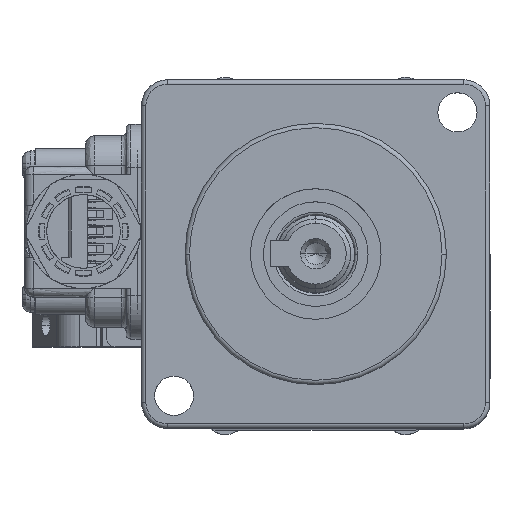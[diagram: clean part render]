
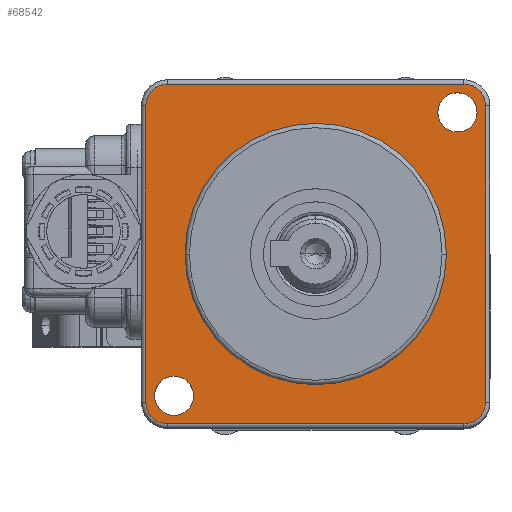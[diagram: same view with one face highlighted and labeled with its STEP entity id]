
A CAD part, top view. The second image highlights one B-rep face of the part: STEP entity #68542.
In plain terms, the highlighted planar face has unit normal (0, 0, 1).
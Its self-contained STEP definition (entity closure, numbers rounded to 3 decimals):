
#298 = DIRECTION ( 'NONE',  ( 0., 0., 1. ) ) ;
#1373 = LINE ( 'NONE', #54891, #66879 ) ;
#1890 = DIRECTION ( 'NONE',  ( 0., 0., 1. ) ) ;
#2450 = EDGE_CURVE ( 'NONE', #16602, #66907, #24047, .T. ) ;
#3047 = CIRCLE ( 'NONE', #60270, 2.25 ) ;
#3308 = DIRECTION ( 'NONE',  ( 0., 0., 1. ) ) ;
#3747 = AXIS2_PLACEMENT_3D ( 'NONE', #21713, #14943, #35306 ) ;
#4265 = ORIENTED_EDGE ( 'NONE', *, *, #46332, .T. ) ;
#4549 = ORIENTED_EDGE ( 'NONE', *, *, #62111, .T. ) ;
#5014 = EDGE_LOOP ( 'NONE', ( #61290, #83989 ) ) ;
#5046 = AXIS2_PLACEMENT_3D ( 'NONE', #64132, #70649, #29865 ) ;
#6982 = AXIS2_PLACEMENT_3D ( 'NONE', #33897, #68479, #20331 ) ;
#7092 = DIRECTION ( 'NONE',  ( -1., 0., 0. ) ) ;
#9124 = CARTESIAN_POINT ( 'NONE',  ( -4.76, -18.058, 75.5 ) ) ;
#9191 = FACE_BOUND ( 'NONE', #64204, .T. ) ;
#9263 = LINE ( 'NONE', #9124, #40968 ) ;
#10920 = VECTOR ( 'NONE', #47127, 1000. ) ;
#11209 = CARTESIAN_POINT ( 'NONE',  ( -24.26, -15.558, 75.5 ) ) ;
#12215 = CARTESIAN_POINT ( 'NONE',  ( 9.253, 17.705, 75.5 ) ) ;
#12603 = CARTESIAN_POINT ( 'NONE',  ( -21.76, 18.442, 75.5 ) ) ;
#14372 = EDGE_CURVE ( 'NONE', #32406, #60868, #63556, .T. ) ;
#14693 = CARTESIAN_POINT ( 'NONE',  ( 11.503, 17.705, 75.5 ) ) ;
#14736 = AXIS2_PLACEMENT_3D ( 'NONE', #14693, #82639, #48671 ) ;
#14758 = AXIS2_PLACEMENT_3D ( 'NONE', #47265, #298, #7092 ) ;
#14943 = DIRECTION ( 'NONE',  ( 0., 0., -1. ) ) ;
#15988 = VERTEX_POINT ( 'NONE', #84012 ) ;
#16250 = CARTESIAN_POINT ( 'NONE',  ( 14.74, -15.558, 75.5 ) ) ;
#16602 = VERTEX_POINT ( 'NONE', #11209 ) ;
#17217 = DIRECTION ( 'NONE',  ( -1., 0., 0. ) ) ;
#18402 = EDGE_CURVE ( 'NONE', #63578, #45551, #3047, .T. ) ;
#19540 = VERTEX_POINT ( 'NONE', #27220 ) ;
#20261 = DIRECTION ( 'NONE',  ( 0., 0., 1. ) ) ;
#20301 = EDGE_CURVE ( 'NONE', #66907, #23272, #9263, .T. ) ;
#20331 = DIRECTION ( 'NONE',  ( -1., 0., 0. ) ) ;
#20897 = DIRECTION ( 'NONE',  ( -1., 0., 0. ) ) ;
#21704 = CIRCLE ( 'NONE', #42471, 2.5 ) ;
#21713 = CARTESIAN_POINT ( 'NONE',  ( -4.76, 1.442, 75.5 ) ) ;
#23272 = VERTEX_POINT ( 'NONE', #48298 ) ;
#23579 = VERTEX_POINT ( 'NONE', #74955 ) ;
#23605 = DIRECTION ( 'NONE',  ( 0., 0., 1. ) ) ;
#23818 = ORIENTED_EDGE ( 'NONE', *, *, #20301, .T. ) ;
#24047 = CIRCLE ( 'NONE', #6982, 2.5 ) ;
#27220 = CARTESIAN_POINT ( 'NONE',  ( -19.76, 1.442, 75.5 ) ) ;
#27398 = VERTEX_POINT ( 'NONE', #16250 ) ;
#28184 = PLANE ( 'NONE',  #3747 ) ;
#28520 = CARTESIAN_POINT ( 'NONE',  ( -23.274, -14.822, 75.5 ) ) ;
#28576 = VERTEX_POINT ( 'NONE', #78456 ) ;
#28957 = EDGE_LOOP ( 'NONE', ( #29028, #83746 ) ) ;
#29028 = ORIENTED_EDGE ( 'NONE', *, *, #85522, .F. ) ;
#29093 = CARTESIAN_POINT ( 'NONE',  ( -21.76, -18.058, 75.5 ) ) ;
#29865 = DIRECTION ( 'NONE',  ( -1., 0., 0. ) ) ;
#29996 = CIRCLE ( 'NONE', #65724, 2.25 ) ;
#32396 = FACE_BOUND ( 'NONE', #5014, .T. ) ;
#32406 = VERTEX_POINT ( 'NONE', #40358 ) ;
#33897 = CARTESIAN_POINT ( 'NONE',  ( -21.76, -15.558, 75.5 ) ) ;
#34195 = DIRECTION ( 'NONE',  ( 0., 1., 0. ) ) ;
#34498 = FACE_BOUND ( 'NONE', #28957, .T. ) ;
#35306 = DIRECTION ( 'NONE',  ( -1., 0., 0. ) ) ;
#36478 = CIRCLE ( 'NONE', #14758, 15. ) ;
#37316 = ORIENTED_EDGE ( 'NONE', *, *, #73764, .T. ) ;
#37357 = LINE ( 'NONE', #66918, #10920 ) ;
#38771 = ORIENTED_EDGE ( 'NONE', *, *, #85326, .T. ) ;
#39671 = ORIENTED_EDGE ( 'NONE', *, *, #2450, .T. ) ;
#40358 = CARTESIAN_POINT ( 'NONE',  ( 13.753, 17.705, 75.5 ) ) ;
#40661 = DIRECTION ( 'NONE',  ( -1., 0., 0. ) ) ;
#40968 = VECTOR ( 'NONE', #56370, 1000. ) ;
#41458 = EDGE_CURVE ( 'NONE', #72192, #50703, #48172, .T. ) ;
#42392 = CARTESIAN_POINT ( 'NONE',  ( 11.503, 17.705, 75.5 ) ) ;
#42471 = AXIS2_PLACEMENT_3D ( 'NONE', #78606, #23605, #64418 ) ;
#42994 = EDGE_CURVE ( 'NONE', #15988, #28576, #54535, .T. ) ;
#43252 = AXIS2_PLACEMENT_3D ( 'NONE', #42392, #1890, #49194 ) ;
#45126 = FACE_OUTER_BOUND ( 'NONE', #81930, .T. ) ;
#45551 = VERTEX_POINT ( 'NONE', #28520 ) ;
#45591 = ORIENTED_EDGE ( 'NONE', *, *, #86888, .F. ) ;
#46332 = EDGE_CURVE ( 'NONE', #28576, #72192, #72157, .T. ) ;
#47127 = DIRECTION ( 'NONE',  ( 0., -1., 0. ) ) ;
#47265 = CARTESIAN_POINT ( 'NONE',  ( -4.76, 1.442, 75.5 ) ) ;
#47855 = CIRCLE ( 'NONE', #14736, 2.25 ) ;
#48172 = CIRCLE ( 'NONE', #73848, 2.5 ) ;
#48298 = CARTESIAN_POINT ( 'NONE',  ( 12.24, -18.058, 75.5 ) ) ;
#48671 = DIRECTION ( 'NONE',  ( -1., 0., 0. ) ) ;
#49194 = DIRECTION ( 'NONE',  ( -1., 0., 0. ) ) ;
#50703 = VERTEX_POINT ( 'NONE', #67612 ) ;
#52889 = CIRCLE ( 'NONE', #5046, 15. ) ;
#53378 = DIRECTION ( 'NONE',  ( 0., 0., 1. ) ) ;
#54535 = CIRCLE ( 'NONE', #74474, 2.5 ) ;
#54891 = CARTESIAN_POINT ( 'NONE',  ( 14.74, 1.442, 75.5 ) ) ;
#56370 = DIRECTION ( 'NONE',  ( 1., 0., 0. ) ) ;
#57070 = CARTESIAN_POINT ( 'NONE',  ( -21.024, -14.822, 75.5 ) ) ;
#59005 = EDGE_CURVE ( 'NONE', #23579, #19540, #52889, .T. ) ;
#59832 = DIRECTION ( 'NONE',  ( -1., 0., 0. ) ) ;
#60270 = AXIS2_PLACEMENT_3D ( 'NONE', #68177, #61372, #20897 ) ;
#60868 = VERTEX_POINT ( 'NONE', #12215 ) ;
#61290 = ORIENTED_EDGE ( 'NONE', *, *, #73385, .F. ) ;
#61372 = DIRECTION ( 'NONE',  ( 0., 0., 1. ) ) ;
#62111 = EDGE_CURVE ( 'NONE', #27398, #15988, #1373, .T. ) ;
#63402 = ORIENTED_EDGE ( 'NONE', *, *, #41458, .T. ) ;
#63556 = CIRCLE ( 'NONE', #43252, 2.25 ) ;
#63578 = VERTEX_POINT ( 'NONE', #73656 ) ;
#64132 = CARTESIAN_POINT ( 'NONE',  ( -4.76, 1.442, 75.5 ) ) ;
#64204 = EDGE_LOOP ( 'NONE', ( #45591, #83892 ) ) ;
#64418 = DIRECTION ( 'NONE',  ( -1., 0., 0. ) ) ;
#64740 = CARTESIAN_POINT ( 'NONE',  ( -4.76, 20.942, 75.5 ) ) ;
#65724 = AXIS2_PLACEMENT_3D ( 'NONE', #57070, #3308, #17217 ) ;
#66879 = VECTOR ( 'NONE', #34195, 1000. ) ;
#66907 = VERTEX_POINT ( 'NONE', #29093 ) ;
#66918 = CARTESIAN_POINT ( 'NONE',  ( -24.26, 1.442, 75.5 ) ) ;
#67612 = CARTESIAN_POINT ( 'NONE',  ( -24.26, 18.442, 75.5 ) ) ;
#68177 = CARTESIAN_POINT ( 'NONE',  ( -21.024, -14.822, 75.5 ) ) ;
#68479 = DIRECTION ( 'NONE',  ( 0., 0., 1. ) ) ;
#68542 = ADVANCED_FACE ( 'NONE', ( #45126, #32396, #9191, #34498 ), #28184, .F. ) ;
#68803 = ORIENTED_EDGE ( 'NONE', *, *, #42994, .T. ) ;
#70649 = DIRECTION ( 'NONE',  ( 0., 0., 1. ) ) ;
#71663 = CARTESIAN_POINT ( 'NONE',  ( -21.76, 20.942, 75.5 ) ) ;
#72157 = LINE ( 'NONE', #64740, #81687 ) ;
#72192 = VERTEX_POINT ( 'NONE', #71663 ) ;
#73385 = EDGE_CURVE ( 'NONE', #60868, #32406, #47855, .T. ) ;
#73656 = CARTESIAN_POINT ( 'NONE',  ( -18.774, -14.822, 75.5 ) ) ;
#73764 = EDGE_CURVE ( 'NONE', #50703, #16602, #37357, .T. ) ;
#73848 = AXIS2_PLACEMENT_3D ( 'NONE', #12603, #53378, #59832 ) ;
#74474 = AXIS2_PLACEMENT_3D ( 'NONE', #81121, #20261, #40661 ) ;
#74955 = CARTESIAN_POINT ( 'NONE',  ( 10.24, 1.442, 75.5 ) ) ;
#78456 = CARTESIAN_POINT ( 'NONE',  ( 12.24, 20.942, 75.5 ) ) ;
#78606 = CARTESIAN_POINT ( 'NONE',  ( 12.24, -15.558, 75.5 ) ) ;
#81121 = CARTESIAN_POINT ( 'NONE',  ( 12.24, 18.442, 75.5 ) ) ;
#81687 = VECTOR ( 'NONE', #84834, 1000. ) ;
#81930 = EDGE_LOOP ( 'NONE', ( #4265, #63402, #37316, #39671, #23818, #38771, #4549, #68803 ) ) ;
#82639 = DIRECTION ( 'NONE',  ( 0., 0., 1. ) ) ;
#83746 = ORIENTED_EDGE ( 'NONE', *, *, #59005, .F. ) ;
#83892 = ORIENTED_EDGE ( 'NONE', *, *, #18402, .F. ) ;
#83989 = ORIENTED_EDGE ( 'NONE', *, *, #14372, .F. ) ;
#84012 = CARTESIAN_POINT ( 'NONE',  ( 14.74, 18.442, 75.5 ) ) ;
#84834 = DIRECTION ( 'NONE',  ( -1., 0., 0. ) ) ;
#85326 = EDGE_CURVE ( 'NONE', #23272, #27398, #21704, .T. ) ;
#85522 = EDGE_CURVE ( 'NONE', #19540, #23579, #36478, .T. ) ;
#86888 = EDGE_CURVE ( 'NONE', #45551, #63578, #29996, .T. ) ;
